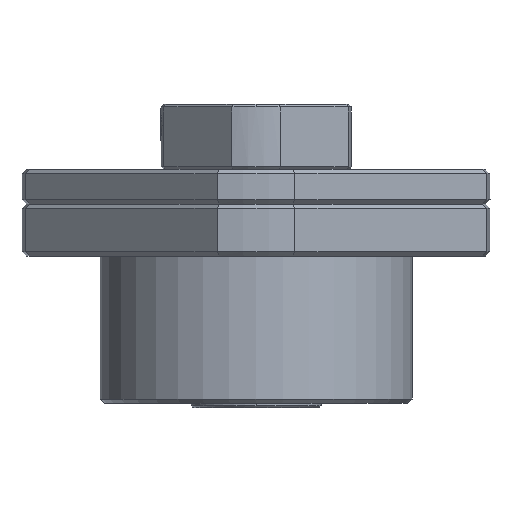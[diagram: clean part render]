
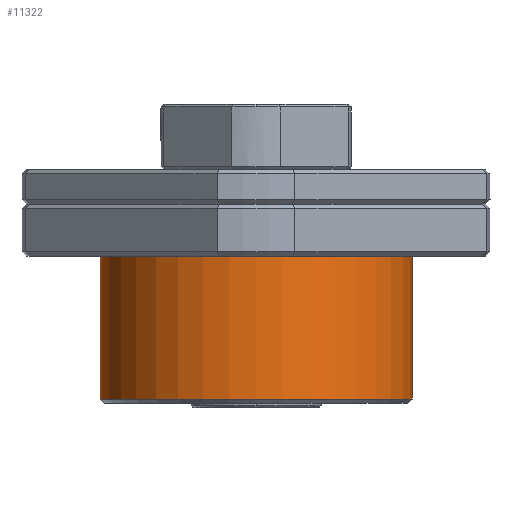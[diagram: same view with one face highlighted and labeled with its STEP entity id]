
A CAD part, left-side view. The second image highlights one B-rep face of the part: STEP entity #11322.
In plain terms, the highlighted cylindrical face has radius 18 mm (diameter 36 mm), a partial arc.
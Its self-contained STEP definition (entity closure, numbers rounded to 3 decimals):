
#11 = DIRECTION ( 'NONE',  ( 0., 1., 0. ) ) ;
#12 = DIRECTION ( 'NONE',  ( 0., 0., 1. ) ) ;
#13 = CARTESIAN_POINT ( 'NONE',  ( 0., 0., -11. ) ) ;
#16 = DIRECTION ( 'NONE',  ( 0., 1., 0. ) ) ;
#17 = DIRECTION ( 'NONE',  ( 0., 0., -1. ) ) ;
#18 = CARTESIAN_POINT ( 'NONE',  ( 0., 0., 5.5 ) ) ;
#1510 = CIRCLE ( 'NONE', #7210, 18. ) ;
#1512 = CIRCLE ( 'NONE', #7154, 18. ) ;
#3429 = VECTOR ( 'NONE', #6067, 1000. ) ;
#3431 = LINE ( 'NONE', #6061, #3429 ) ;
#3432 = VECTOR ( 'NONE', #6073, 1000. ) ;
#3435 = LINE ( 'NONE', #6072, #3432 ) ;
#3696 = ORIENTED_EDGE ( 'NONE', *, *, #11058, .F. ) ;
#4156 = ORIENTED_EDGE ( 'NONE', *, *, #6672, .T. ) ;
#4167 = ORIENTED_EDGE ( 'NONE', *, *, #11056, .T. ) ;
#4178 = ORIENTED_EDGE ( 'NONE', *, *, #6671, .T. ) ;
#4538 = CARTESIAN_POINT ( 'NONE',  ( 0., -18., 5.5 ) ) ;
#4659 = CARTESIAN_POINT ( 'NONE',  ( 0., -18., -11. ) ) ;
#4680 = CARTESIAN_POINT ( 'NONE',  ( 0., 18., 5.5 ) ) ;
#4787 = CARTESIAN_POINT ( 'NONE',  ( 0., 18., -11. ) ) ;
#5244 = CYLINDRICAL_SURFACE ( 'NONE', #6549, 18. ) ;
#5250 = FACE_OUTER_BOUND ( 'NONE', #11657, .T. ) ;
#6061 = CARTESIAN_POINT ( 'NONE',  ( 0., -18., -11.5 ) ) ;
#6067 = DIRECTION ( 'NONE',  ( 0., 0., -1. ) ) ;
#6072 = CARTESIAN_POINT ( 'NONE',  ( 0., 18., -11.5 ) ) ;
#6073 = DIRECTION ( 'NONE',  ( 0., 0., -1. ) ) ;
#6549 = AXIS2_PLACEMENT_3D ( 'NONE', #12275, #12273, #12271 ) ;
#6671 = EDGE_CURVE ( 'NONE', #13745, #13887, #1510, .T. ) ;
#6672 = EDGE_CURVE ( 'NONE', #14023, #13866, #1512, .T. ) ;
#7154 = AXIS2_PLACEMENT_3D ( 'NONE', #13, #12, #11 ) ;
#7210 = AXIS2_PLACEMENT_3D ( 'NONE', #18, #17, #16 ) ;
#11056 = EDGE_CURVE ( 'NONE', #13887, #14023, #3435, .T. ) ;
#11058 = EDGE_CURVE ( 'NONE', #13745, #13866, #3431, .T. ) ;
#11322 = ADVANCED_FACE ( 'NONE', ( #5250 ), #5244, .T. ) ;
#11657 = EDGE_LOOP ( 'NONE', ( #3696, #4178, #4167, #4156 ) ) ;
#12271 = DIRECTION ( 'NONE',  ( 0., 1., 0. ) ) ;
#12273 = DIRECTION ( 'NONE',  ( 0., 0., -1. ) ) ;
#12275 = CARTESIAN_POINT ( 'NONE',  ( 0., 0., -11.5 ) ) ;
#13745 = VERTEX_POINT ( 'NONE', #4538 ) ;
#13866 = VERTEX_POINT ( 'NONE', #4659 ) ;
#13887 = VERTEX_POINT ( 'NONE', #4680 ) ;
#14023 = VERTEX_POINT ( 'NONE', #4787 ) ;
